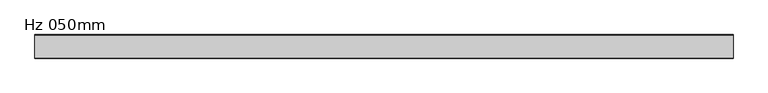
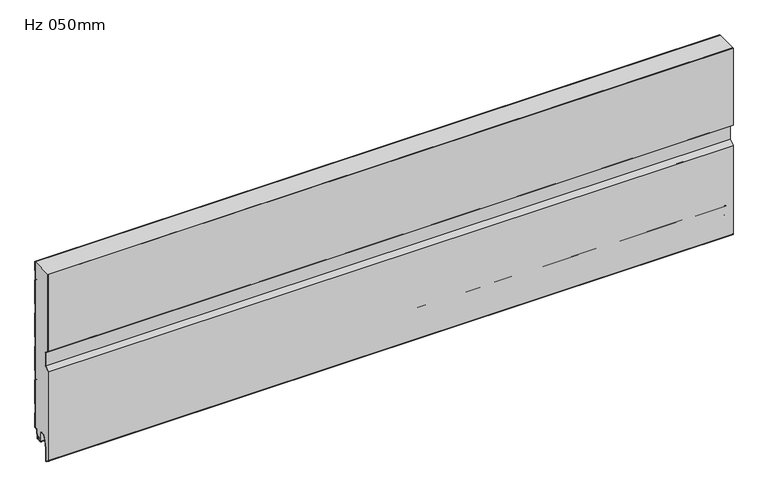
"""IFC4 building model written with IfcOpenShell, lengths in millimetres: plate geometry, KIP-MEX-KW-R19-CP-Hz-KW3_SL : Hz 050mm."""

from ifc_helpers import new_model, si_unit, point, frame, frame_2d, origin, place, context, project, spatial, polyline, circle_curve, trimmed, segment, composite_curve, outline, extrude, source, transform, mapped, element, save


def hz_050mm_ca93fbe0(model_context):
    return source(origin(), model_context, "Body", "SweptSolid", [
        extrude(outline(composite_curve([segment(polyline([(-1.1923863, 378.0794496), (-1.1923863, 359.0343601), (0.0055391, 357.9478358), (0.0055391, 303.0116636), (-1.1923863, 301.9265649), (-1.1923863, 282.8814753), (0.0055391, 281.794951), (0.0055391, 226.8587788), (-1.1923863, 225.7736801), (-1.1923863, 206.7285905), (0.0055391, 205.6420663), (0.0055391, 150.7058941), (-1.1923863, 149.6207954), (-1.1923863, 130.5757058), (0.0071129, 129.4891815), (0.0071129, 74.5544349), (-1.1923863, 73.4679106), (-1.1923863, 54.422821), (0.0, 53.3377223), (0.0, 21.7710722)]), True, "CONTINUOUS"), segment(trimmed(circle_curve(frame_2d((-1.4908763, 21.7710722)), 1.4908762), [point((0.0, 21.7710722))], [point((-1.4908763, 20.280196))], False, "CARTESIAN"), True, "CONTINUOUS"), segment(polyline([(-1.4908763, 20.280196), (-4.495104, 20.280196)]), True, "CONTINUOUS"), segment(trimmed(circle_curve(frame_2d((-4.495104, 18.2846098)), 1.9955862), [point((-4.495104, 20.280196))], [point((-6.4831424, 18.4580093))], True, "CARTESIAN"), True, "CONTINUOUS"), segment(polyline([(-6.4831424, 18.4580093), (-7.9041448, 2.1661016)]), True, "CONTINUOUS"), segment(trimmed(circle_curve(frame_2d((-10.3946892, 2.3833303)), 2.4999999), [point((-7.9041448, 2.1661016))], [point((-9.647721, -0.002469))], False, "CARTESIAN"), True, "CONTINUOUS"), segment(polyline([(-9.647721, -0.002469), (-11.9170147, -0.002469)]), True, "CONTINUOUS"), segment(trimmed(circle_curve(frame_2d((-11.1700464, 2.3833303)), 2.5), [point((-11.9170147, -0.002469))], [point((-13.6605331, 2.1654409))], False, "CARTESIAN"), True, "CONTINUOUS"), segment(polyline([(-13.6605331, 2.1654409), (-14.1669652, 7.9539868), (-13.1707705, 8.0411425), (-12.6643384, 2.2525966)]), True, "CONTINUOUS"), segment(trimmed(circle_curve(frame_2d((-11.1700464, 2.3833303)), 1.5), [point((-12.6643384, 2.2525966))], [point((-11.7441198, 0.997531))], True, "CARTESIAN"), True, "CONTINUOUS"), segment(polyline([(-11.7441198, 0.997531), (-9.8206159, 0.997531)]), True, "CONTINUOUS"), segment(trimmed(circle_curve(frame_2d((-10.3946892, 2.3833303)), 1.4999999), [point((-9.8206159, 0.997531))], [point((-8.9003365, 2.2532919))], True, "CARTESIAN"), True, "CONTINUOUS"), segment(polyline([(-8.9003365, 2.2532919), (-7.4823437, 18.5483373)]), True, "CONTINUOUS"), segment(trimmed(circle_curve(frame_2d((-4.4936383, 18.2882606)), 3.0), [point((-7.4823437, 18.5483373))], [point((-4.4936383, 21.2882606))], False, "CARTESIAN"), True, "CONTINUOUS"), segment(polyline([(-4.4936383, 21.2882606), (-0.9936383, 21.2882606), (-0.9936383, 52.8942781), (-2.1923863, 53.9793766), (-2.1923863, 73.911355), (-0.9928871, 74.9978793), (-0.9928871, 129.0457371), (-2.1923863, 130.1322614), (-2.1923863, 150.0642397), (-0.9928871, 151.150764), (-0.9928871, 205.1986219), (-2.1923863, 206.2851462), (-2.1923863, 226.2171245), (-0.9928871, 227.3036488), (-0.9928871, 281.3515066), (-2.1923863, 282.4380309), (-2.1923863, 302.3700093), (-0.9928871, 303.4565335), (-0.9928871, 357.5043914), (-2.1923863, 358.5909157), (-2.1923863, 378.522894), (-0.9928871, 379.6094183), (-0.9928871, 400.0520896), (0.0055391, 400.0520896), (0.0055391, 379.1645483), (-1.1923863, 378.0794496)]), True, "CONTINUOUS")], self_intersect=False)), frame((-740.0, 0.0, 0.0), z_axis=(1.0, 0.0, 0.0), x_axis=(0.0, 1.0, 0.0)), (0.0, 0.0, 1.0), 1480.0),
        extrude(outline(composite_curve([segment(polyline([(-14.168539, 7.9539868), (-13.6621069, 2.1654409)]), True, "CONTINUOUS"), segment(trimmed(circle_curve(frame_2d((-11.1716202, 2.3833303)), 2.5), [point((-13.6621069, 2.1654409))], [point((-11.9264293, 0.0))], True, "CARTESIAN"), True, "CONTINUOUS"), segment(polyline([(-11.9264293, 0.0), (-18.737817, 0.0)]), True, "CONTINUOUS"), segment(trimmed(circle_curve(frame_2d((-18.737817, 2.4986532)), 2.4986532), [point((-18.737817, 0.0))], [point((-16.2391638, 2.4986532))], True, "CARTESIAN"), True, "CONTINUOUS"), segment(polyline([(-16.2391638, 2.4986532), (-16.2391638, 6.9975309), (-17.2393619, 6.9975309), (-17.2393619, 2.4989009)]), True, "CONTINUOUS"), segment(trimmed(circle_curve(frame_2d((-18.737718, 2.4989009)), 1.4983561), [point((-17.2393619, 2.4989009))], [point((-18.737718, 1.0005448))], False, "CARTESIAN"), True, "CONTINUOUS"), segment(polyline([(-18.737718, 1.0005448), (-20.2871287, 1.0005448)]), True, "CONTINUOUS"), segment(trimmed(circle_curve(frame_2d((-20.2871287, 2.4946541)), 1.4941093), [point((-20.2871287, 1.0005448))], [point((-21.781238, 2.4946541))], False, "CARTESIAN"), True, "CONTINUOUS"), segment(polyline([(-21.781238, 2.4946541), (-21.781238, 21.0181667)]), True, "CONTINUOUS"), segment(trimmed(circle_curve(frame_2d((-24.8021238, 21.0181667)), 3.0208858), [point((-21.781238, 21.0181667))], [point((-24.8021238, 24.0390526))], True, "CARTESIAN"), True, "CONTINUOUS"), segment(polyline([(-24.8021238, 24.0390526), (-32.2693804, 24.0390526)]), True, "CONTINUOUS"), segment(trimmed(circle_curve(frame_2d((-32.2693804, 21.0499553)), 2.9890972), [point((-32.2693804, 24.0390526))], [point((-35.1423641, 21.8749809))], True, "CARTESIAN"), True, "CONTINUOUS"), segment(polyline([(-35.1423641, 21.8749809), (-42.2405983, -2.8431766), (-42.2405983, -31.2013392), (-48.9952121, -25.9234803), (-48.9952121, 177.1070348), (-38.9944609, 185.1076357), (-38.9944609, 216.0688854), (-48.9944609, 224.0688854), (-48.9944609, 400.0520896), (-0.9944609, 400.0520896), (-0.9944609, 379.6094183), (-2.1939601, 378.522894), (-2.1939601, 358.5909157), (-0.9944609, 357.5058172), (-0.9944609, 303.4565335), (-2.1939601, 302.3700093), (-2.1939601, 282.4380309), (-0.9944609, 281.3529324), (-0.9944609, 227.3036488), (-2.1939601, 226.2171245), (-2.1939601, 206.2851462), (-0.9944609, 205.2000477), (-0.9944609, 151.150764), (-2.1939601, 150.0642397), (-2.1939601, 130.1322614), (-0.9944609, 129.0471629), (-0.9944609, 74.9978793), (-2.1939601, 73.911355), (-2.1939601, 53.9793766), (-0.9952121, 52.8942781), (-0.9952121, 21.2882606), (-4.4952121, 21.2882606)]), True, "CONTINUOUS"), segment(trimmed(circle_curve(frame_2d((-4.4952121, 18.2882606)), 3.0), [point((-4.4952121, 21.2882606))], [point((-7.4839175, 18.5483373))], True, "CARTESIAN"), True, "CONTINUOUS"), segment(polyline([(-7.4839175, 18.5483373), (-8.9019103, 2.2532919)]), True, "CONTINUOUS"), segment(trimmed(circle_curve(frame_2d((-10.396263, 2.3833303)), 1.4999999), [point((-8.9019103, 2.2532919))], [point((-9.8221897, 0.997531))], False, "CARTESIAN"), True, "CONTINUOUS"), segment(polyline([(-9.8221897, 0.997531), (-11.7456936, 0.997531)]), True, "CONTINUOUS"), segment(trimmed(circle_curve(frame_2d((-11.1716202, 2.3833303)), 1.5), [point((-11.7456936, 0.997531))], [point((-12.6659122, 2.2525966))], False, "CARTESIAN"), True, "CONTINUOUS"), segment(polyline([(-12.6659122, 2.2525966), (-13.1723443, 8.0411425), (-14.168539, 7.9539868)]), True, "CONTINUOUS")], self_intersect=False)), frame((-740.0, 0.0, 0.0), z_axis=(1.0, 0.0, 0.0), x_axis=(0.0, 1.0, 0.0)), (0.0, 0.0, 1.0), 1480.0),
        extrude(outline(composite_curve([segment(polyline([(-49.9944609, 177.5882606), (-39.9944609, 185.5882606), (-39.9944609, 215.5882606), (-49.9944609, 223.5882606), (-49.9944609, 400.0520896), (-48.9944609, 400.0520896), (-48.9944609, 224.0688854), (-38.9944609, 216.0688854), (-38.9944609, 185.1076357), (-48.9944609, 177.1076357), (-48.9944609, -25.9234803), (-42.2398472, -31.2013392), (-42.2398472, -2.8431766), (-35.1416127, 21.8749809)]), True, "CONTINUOUS"), segment(trimmed(circle_curve(frame_2d((-32.2686293, 21.0499554)), 2.9890973), [point((-35.1416127, 21.8749809))], [point((-32.2686293, 24.0390526))], False, "CARTESIAN"), True, "CONTINUOUS"), segment(polyline([(-32.2686293, 24.0390526), (-24.8013726, 24.0390526)]), True, "CONTINUOUS"), segment(trimmed(circle_curve(frame_2d((-24.8013726, 21.0181668)), 3.0208858), [point((-24.8013726, 24.0390526))], [point((-21.7804868, 21.0181668))], False, "CARTESIAN"), True, "CONTINUOUS"), segment(polyline([(-21.7804868, 21.0181668), (-21.7804868, 2.4946541)]), True, "CONTINUOUS"), segment(trimmed(circle_curve(frame_2d((-20.2863776, 2.4946541)), 1.4941093), [point((-21.7804868, 2.4946541))], [point((-20.2863776, 1.0005448))], True, "CARTESIAN"), True, "CONTINUOUS"), segment(polyline([(-20.2863776, 1.0005448), (-18.7369668, 1.0005448)]), True, "CONTINUOUS"), segment(trimmed(circle_curve(frame_2d((-18.7369668, 2.4989009)), 1.4983561), [point((-18.7369668, 1.0005448))], [point((-17.2386107, 2.4989009))], True, "CARTESIAN"), True, "CONTINUOUS"), segment(polyline([(-17.2386107, 2.4989009), (-17.2386107, 6.9975309), (-16.2384126, 6.9975309), (-16.2384126, 2.4986532)]), True, "CONTINUOUS"), segment(trimmed(circle_curve(frame_2d((-18.7370659, 2.4986532)), 2.4986532), [point((-16.2384126, 2.4986532))], [point((-18.7370659, 0.0))], False, "CARTESIAN"), True, "CONTINUOUS"), segment(polyline([(-18.7370659, 0.0), (-20.3087755, 0.0)]), True, "CONTINUOUS"), segment(trimmed(circle_curve(frame_2d((-20.2873377, 2.4950818)), 2.4951739), [point((-20.3087755, 0.0))], [point((-22.7825116, 2.4950818))], False, "CARTESIAN"), True, "CONTINUOUS"), segment(polyline([(-22.7825116, 2.4950818), (-22.7825116, 21.0262634)]), True, "CONTINUOUS"), segment(trimmed(circle_curve(frame_2d((-24.799282, 21.0262634)), 2.0167704), [point((-22.7825116, 21.0262634))], [point((-24.799282, 23.0430338))], True, "CARTESIAN"), True, "CONTINUOUS"), segment(polyline([(-24.799282, 23.0430338), (-32.2679288, 23.0430338)]), True, "CONTINUOUS"), segment(trimmed(circle_curve(frame_2d((-32.2679288, 21.0517509)), 1.9912829), [point((-32.2679288, 23.0430338))], [point((-34.1819009, 21.6012219))], True, "CARTESIAN"), True, "CONTINUOUS"), segment(polyline([(-34.1819009, 21.6012219), (-41.2398454, -2.9837112), (-41.2398454, -31.1745677)]), True, "CONTINUOUS"), segment(trimmed(circle_curve(frame_2d((-42.239487, -31.2013392)), 1.0), [point((-41.2398454, -31.1745677))], [point((-42.8551698, -31.9893333))], False, "CARTESIAN"), True, "CONTINUOUS"), segment(polyline([(-42.8551698, -31.9893333), (-49.033668, -27.1618918)]), True, "CONTINUOUS"), segment(trimmed(circle_curve(frame_2d((-47.4944609, -25.1919066)), 2.5), [point((-49.033668, -27.1618918))], [point((-49.9944609, -25.1919066))], False, "CARTESIAN"), True, "CONTINUOUS"), segment(polyline([(-49.9944609, -25.1919066), (-49.9944609, 177.5882606)]), True, "CONTINUOUS")], self_intersect=False)), frame((-740.0, 0.0, 0.0), z_axis=(1.0, 0.0, 0.0), x_axis=(0.0, 1.0, 0.0)), (0.0, 0.0, 1.0), 1480.0),
    ])


if __name__ == "__main__":
    model = new_model("IFC4")
    model_context = context("Model", 3, world=origin())
    ifc_project = project(units=[si_unit("LENGTHUNIT", "METRE", prefix="MILLI")], contexts=[model_context])
    site = spatial("IfcSite", under=ifc_project)
    building = spatial("IfcBuilding", under=site)
    placement = place(None, origin())
    hz_050mm_shape = hz_050mm_ca93fbe0(model_context)
    element("IfcPlate", 1, ObjectType="KIP-MEX-KW-R19-CP-Hz-KW3_SL : Hz 050mm", at=placement, inside=building, context=model_context, shape_type="MappedRepresentation", body=[
        mapped(hz_050mm_shape, transform((0.0, 0.0, 0.0), x_axis=(1.0, 0.0, 0.0), y_axis=(0.0, 1.0, 0.0), z_axis=(0.0, 0.0, 1.0))),
    ])
    save(model, "model.ifc")
